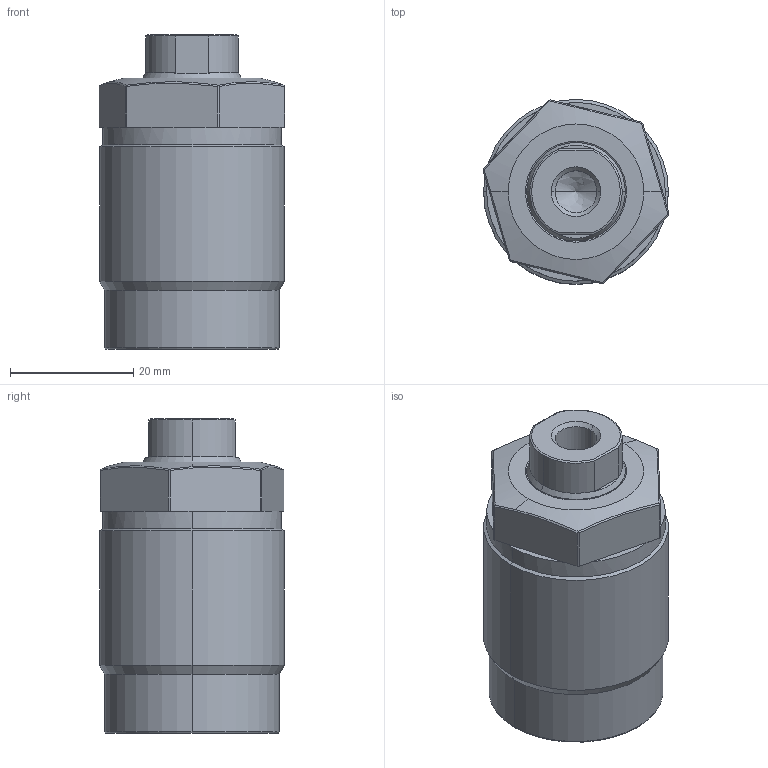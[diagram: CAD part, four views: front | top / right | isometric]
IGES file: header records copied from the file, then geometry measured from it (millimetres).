
Start section: SolidWorks IGES file using analytic representation for surfaces
Global section: file name: F:\THREADED BODY PUSHER-STD\TO3C-M303-M.IGS; native system: SolidWorks 2019; preprocessor: SolidWorks 2019; author: ADMIN; date: 200710.084432; units: millimetre
Bounding box: 30.17 x 30 x 51 mm (x, y, z)
Volume: 29080.9 mm3; surface area: 9838.5 mm2
Topology: 2 solids, 2 shells, 88 faces, 200 edges, 119 vertices
Faces by surface type: revolution 44, plane 38, bspline 6
